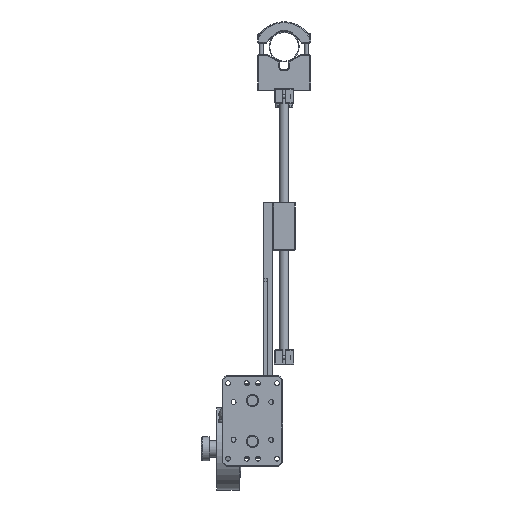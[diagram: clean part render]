
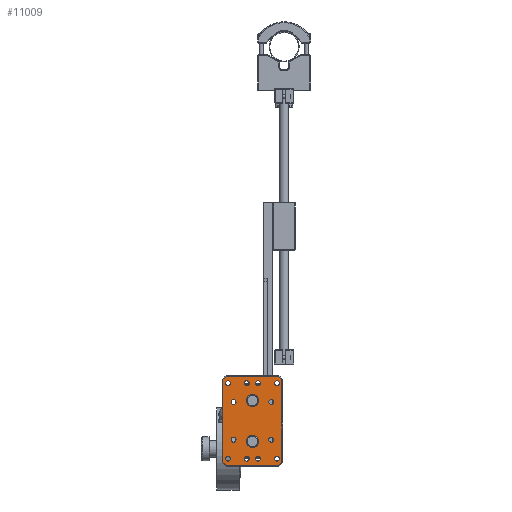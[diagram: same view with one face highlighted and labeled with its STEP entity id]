
A CAD part, front view. The second image highlights one B-rep face of the part: STEP entity #11009.
In plain terms, the highlighted planar face has unit normal (0, -1, 0) as drawn and (0, 0, -1) by its records, which use the part's own axes.
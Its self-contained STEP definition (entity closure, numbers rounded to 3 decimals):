
#783=LINE('',#17985,#1704);
#784=LINE('',#17988,#1705);
#785=LINE('',#17990,#1706);
#786=LINE('',#17992,#1707);
#787=LINE('',#17994,#1708);
#788=LINE('',#17996,#1709);
#789=LINE('',#17998,#1710);
#790=LINE('',#18000,#1711);
#1704=VECTOR('',#13447,1000.);
#1705=VECTOR('',#13448,1000.);
#1706=VECTOR('',#13449,1000.);
#1707=VECTOR('',#13450,1000.);
#1708=VECTOR('',#13451,1000.);
#1709=VECTOR('',#13452,1000.);
#1710=VECTOR('',#13453,1000.);
#1711=VECTOR('',#13454,1000.);
#2802=ORIENTED_EDGE('',*,*,#5534,.T.);
#2803=ORIENTED_EDGE('',*,*,#5535,.T.);
#2804=ORIENTED_EDGE('',*,*,#5536,.T.);
#2805=ORIENTED_EDGE('',*,*,#5537,.T.);
#2806=ORIENTED_EDGE('',*,*,#5538,.T.);
#2807=ORIENTED_EDGE('',*,*,#5539,.T.);
#2808=ORIENTED_EDGE('',*,*,#5540,.T.);
#2809=ORIENTED_EDGE('',*,*,#5541,.T.);
#2810=ORIENTED_EDGE('',*,*,#5542,.T.);
#2811=ORIENTED_EDGE('',*,*,#5543,.T.);
#2812=ORIENTED_EDGE('',*,*,#5544,.T.);
#2813=ORIENTED_EDGE('',*,*,#5545,.T.);
#2814=ORIENTED_EDGE('',*,*,#5546,.T.);
#2815=ORIENTED_EDGE('',*,*,#5547,.T.);
#2816=ORIENTED_EDGE('',*,*,#5548,.T.);
#2817=ORIENTED_EDGE('',*,*,#5549,.T.);
#2818=ORIENTED_EDGE('',*,*,#5550,.T.);
#2819=ORIENTED_EDGE('',*,*,#5551,.T.);
#2820=ORIENTED_EDGE('',*,*,#5552,.T.);
#2821=ORIENTED_EDGE('',*,*,#5553,.T.);
#2822=ORIENTED_EDGE('',*,*,#5554,.F.);
#2823=ORIENTED_EDGE('',*,*,#5555,.F.);
#5534=EDGE_CURVE('',#6919,#6920,#783,.T.);
#5535=EDGE_CURVE('',#6920,#6921,#784,.T.);
#5536=EDGE_CURVE('',#6921,#6922,#785,.T.);
#5537=EDGE_CURVE('',#6922,#6923,#786,.T.);
#5538=EDGE_CURVE('',#6923,#6924,#787,.T.);
#5539=EDGE_CURVE('',#6924,#6925,#788,.T.);
#5540=EDGE_CURVE('',#6925,#6926,#789,.T.);
#5541=EDGE_CURVE('',#6926,#6919,#790,.T.);
#5542=EDGE_CURVE('',#6927,#6927,#7828,.T.);
#5543=EDGE_CURVE('',#6928,#6928,#7829,.T.);
#5544=EDGE_CURVE('',#6929,#6929,#7830,.T.);
#5545=EDGE_CURVE('',#6930,#6930,#7831,.T.);
#5546=EDGE_CURVE('',#6931,#6931,#7832,.T.);
#5547=EDGE_CURVE('',#6932,#6932,#7833,.T.);
#5548=EDGE_CURVE('',#6933,#6933,#7834,.T.);
#5549=EDGE_CURVE('',#6934,#6934,#7835,.T.);
#5550=EDGE_CURVE('',#6935,#6935,#7836,.T.);
#5551=EDGE_CURVE('',#6936,#6936,#7837,.T.);
#5552=EDGE_CURVE('',#6937,#6937,#7838,.T.);
#5553=EDGE_CURVE('',#6938,#6938,#7839,.T.);
#5554=EDGE_CURVE('',#6939,#6939,#7840,.F.);
#5555=EDGE_CURVE('',#6940,#6940,#7841,.F.);
#6919=VERTEX_POINT('',#17986);
#6920=VERTEX_POINT('',#17987);
#6921=VERTEX_POINT('',#17989);
#6922=VERTEX_POINT('',#17991);
#6923=VERTEX_POINT('',#17993);
#6924=VERTEX_POINT('',#17995);
#6925=VERTEX_POINT('',#17997);
#6926=VERTEX_POINT('',#17999);
#6927=VERTEX_POINT('',#18002);
#6928=VERTEX_POINT('',#18004);
#6929=VERTEX_POINT('',#18006);
#6930=VERTEX_POINT('',#18008);
#6931=VERTEX_POINT('',#18010);
#6932=VERTEX_POINT('',#18012);
#6933=VERTEX_POINT('',#18014);
#6934=VERTEX_POINT('',#18016);
#6935=VERTEX_POINT('',#18018);
#6936=VERTEX_POINT('',#18020);
#6937=VERTEX_POINT('',#18022);
#6938=VERTEX_POINT('',#18024);
#6939=VERTEX_POINT('',#18026);
#6940=VERTEX_POINT('',#18028);
#7828=CIRCLE('',#11928,3.25);
#7829=CIRCLE('',#11929,3.25);
#7830=CIRCLE('',#11930,3.25);
#7831=CIRCLE('',#11931,3.25);
#7832=CIRCLE('',#11932,3.25);
#7833=CIRCLE('',#11933,3.25);
#7834=CIRCLE('',#11934,3.25);
#7835=CIRCLE('',#11935,3.25);
#7836=CIRCLE('',#11936,3.25);
#7837=CIRCLE('',#11937,3.25);
#7838=CIRCLE('',#11938,3.25);
#7839=CIRCLE('',#11939,3.25);
#7840=CIRCLE('',#11940,8.);
#7841=CIRCLE('',#11941,8.);
#8350=EDGE_LOOP('',(#2802,#2803,#2804,#2805,#2806,#2807,#2808,#2809));
#8351=EDGE_LOOP('',(#2810));
#8352=EDGE_LOOP('',(#2811));
#8353=EDGE_LOOP('',(#2812));
#8354=EDGE_LOOP('',(#2813));
#8355=EDGE_LOOP('',(#2814));
#8356=EDGE_LOOP('',(#2815));
#8357=EDGE_LOOP('',(#2816));
#8358=EDGE_LOOP('',(#2817));
#8359=EDGE_LOOP('',(#2818));
#8360=EDGE_LOOP('',(#2819));
#8361=EDGE_LOOP('',(#2820));
#8362=EDGE_LOOP('',(#2821));
#8363=EDGE_LOOP('',(#2822));
#8364=EDGE_LOOP('',(#2823));
#9465=FACE_BOUND('',#8350,.T.);
#9466=FACE_BOUND('',#8351,.T.);
#9467=FACE_BOUND('',#8352,.T.);
#9468=FACE_BOUND('',#8353,.T.);
#9469=FACE_BOUND('',#8354,.T.);
#9470=FACE_BOUND('',#8355,.T.);
#9471=FACE_BOUND('',#8356,.T.);
#9472=FACE_BOUND('',#8357,.T.);
#9473=FACE_BOUND('',#8358,.T.);
#9474=FACE_BOUND('',#8359,.T.);
#9475=FACE_BOUND('',#8360,.T.);
#9476=FACE_BOUND('',#8361,.T.);
#9477=FACE_BOUND('',#8362,.T.);
#9478=FACE_BOUND('',#8363,.T.);
#9479=FACE_BOUND('',#8364,.T.);
#10531=PLANE('',#11927);
#11009=ADVANCED_FACE('',(#9465,#9466,#9467,#9468,#9469,#9470,#9471,#9472,
#9473,#9474,#9475,#9476,#9477,#9478,#9479),#10531,.F.);
#11927=AXIS2_PLACEMENT_3D('',#17984,#13445,#13446);
#11928=AXIS2_PLACEMENT_3D('',#18001,#13455,#13456);
#11929=AXIS2_PLACEMENT_3D('',#18003,#13457,#13458);
#11930=AXIS2_PLACEMENT_3D('',#18005,#13459,#13460);
#11931=AXIS2_PLACEMENT_3D('',#18007,#13461,#13462);
#11932=AXIS2_PLACEMENT_3D('',#18009,#13463,#13464);
#11933=AXIS2_PLACEMENT_3D('',#18011,#13465,#13466);
#11934=AXIS2_PLACEMENT_3D('',#18013,#13467,#13468);
#11935=AXIS2_PLACEMENT_3D('',#18015,#13469,#13470);
#11936=AXIS2_PLACEMENT_3D('',#18017,#13471,#13472);
#11937=AXIS2_PLACEMENT_3D('',#18019,#13473,#13474);
#11938=AXIS2_PLACEMENT_3D('',#18021,#13475,#13476);
#11939=AXIS2_PLACEMENT_3D('',#18023,#13477,#13478);
#11940=AXIS2_PLACEMENT_3D('',#18025,#13479,#13480);
#11941=AXIS2_PLACEMENT_3D('',#18027,#13481,#13482);
#13445=DIRECTION('',(0.,0.,1.));
#13446=DIRECTION('',(1.,0.,0.));
#13447=DIRECTION('',(0.,1.,0.));
#13448=DIRECTION('',(0.707,0.707,0.));
#13449=DIRECTION('',(1.,0.,0.));
#13450=DIRECTION('',(0.707,-0.707,0.));
#13451=DIRECTION('',(0.,-1.,0.));
#13452=DIRECTION('',(-0.707,-0.707,0.));
#13453=DIRECTION('',(-1.,0.,0.));
#13454=DIRECTION('',(-0.707,0.707,0.));
#13455=DIRECTION('',(0.,0.,1.));
#13456=DIRECTION('',(1.,0.,0.));
#13457=DIRECTION('',(0.,0.,1.));
#13458=DIRECTION('',(1.,0.,0.));
#13459=DIRECTION('',(0.,0.,1.));
#13460=DIRECTION('',(1.,0.,0.));
#13461=DIRECTION('',(0.,0.,1.));
#13462=DIRECTION('',(1.,0.,0.));
#13463=DIRECTION('',(0.,0.,1.));
#13464=DIRECTION('',(1.,0.,0.));
#13465=DIRECTION('',(0.,0.,1.));
#13466=DIRECTION('',(1.,0.,0.));
#13467=DIRECTION('',(0.,0.,1.));
#13468=DIRECTION('',(1.,0.,0.));
#13469=DIRECTION('',(0.,0.,1.));
#13470=DIRECTION('',(1.,0.,0.));
#13471=DIRECTION('',(0.,0.,1.));
#13472=DIRECTION('',(1.,0.,0.));
#13473=DIRECTION('',(0.,0.,1.));
#13474=DIRECTION('',(1.,0.,0.));
#13475=DIRECTION('',(0.,0.,1.));
#13476=DIRECTION('',(1.,0.,0.));
#13477=DIRECTION('',(0.,0.,1.));
#13478=DIRECTION('',(1.,0.,0.));
#13479=DIRECTION('',(0.,0.,1.));
#13480=DIRECTION('',(1.,0.,0.));
#13481=DIRECTION('',(0.,0.,1.));
#13482=DIRECTION('',(1.,0.,0.));
#17984=CARTESIAN_POINT('',(-45.972,-49.416,0.));
#17985=CARTESIAN_POINT('',(-44.972,-49.416,0.));
#17986=CARTESIAN_POINT('',(-44.972,-44.002,0.));
#17987=CARTESIAN_POINT('',(-44.972,25.17,0.));
#17988=CARTESIAN_POINT('',(-40.265,29.877,0.));
#17989=CARTESIAN_POINT('',(-40.557,29.584,0.));
#17990=CARTESIAN_POINT('',(-45.972,29.584,0.));
#17991=CARTESIAN_POINT('',(68.614,29.584,0.));
#17992=CARTESIAN_POINT('',(73.321,24.877,0.));
#17993=CARTESIAN_POINT('',(73.028,25.17,0.));
#17994=CARTESIAN_POINT('',(73.028,-49.416,0.));
#17995=CARTESIAN_POINT('',(73.028,-44.002,0.));
#17996=CARTESIAN_POINT('',(68.321,-48.709,0.));
#17997=CARTESIAN_POINT('',(68.614,-48.416,0.));
#17998=CARTESIAN_POINT('',(-45.972,-48.416,0.));
#17999=CARTESIAN_POINT('',(-40.557,-48.416,0.));
#18000=CARTESIAN_POINT('',(-45.265,-43.709,0.));
#18001=CARTESIAN_POINT('',(-35.972,-16.916,0.));
#18002=CARTESIAN_POINT('',(-32.722,-16.916,0.));
#18003=CARTESIAN_POINT('',(-35.972,-1.916,0.));
#18004=CARTESIAN_POINT('',(-32.722,-1.916,0.));
#18005=CARTESIAN_POINT('',(64.028,-1.916,0.));
#18006=CARTESIAN_POINT('',(67.278,-1.916,0.));
#18007=CARTESIAN_POINT('',(64.028,-16.916,0.));
#18008=CARTESIAN_POINT('',(67.278,-16.916,0.));
#18009=CARTESIAN_POINT('',(-10.972,15.584,0.));
#18010=CARTESIAN_POINT('',(-7.722,15.584,0.));
#18011=CARTESIAN_POINT('',(39.028,15.584,0.));
#18012=CARTESIAN_POINT('',(42.278,15.584,0.));
#18013=CARTESIAN_POINT('',(64.028,-41.916,0.));
#18014=CARTESIAN_POINT('',(67.278,-41.916,0.));
#18015=CARTESIAN_POINT('',(-35.972,-41.916,0.));
#18016=CARTESIAN_POINT('',(-32.722,-41.916,0.));
#18017=CARTESIAN_POINT('',(-35.972,23.084,0.));
#18018=CARTESIAN_POINT('',(-32.722,23.084,0.));
#18019=CARTESIAN_POINT('',(-10.972,-34.416,0.));
#18020=CARTESIAN_POINT('',(-7.722,-34.416,0.));
#18021=CARTESIAN_POINT('',(39.028,-34.416,0.));
#18022=CARTESIAN_POINT('',(42.278,-34.416,0.));
#18023=CARTESIAN_POINT('',(64.028,23.084,0.));
#18024=CARTESIAN_POINT('',(67.278,23.084,0.));
#18025=CARTESIAN_POINT('',(41.028,-9.416,0.));
#18026=CARTESIAN_POINT('',(49.028,-9.416,0.));
#18027=CARTESIAN_POINT('',(-12.972,-9.416,0.));
#18028=CARTESIAN_POINT('',(-4.972,-9.416,0.));
